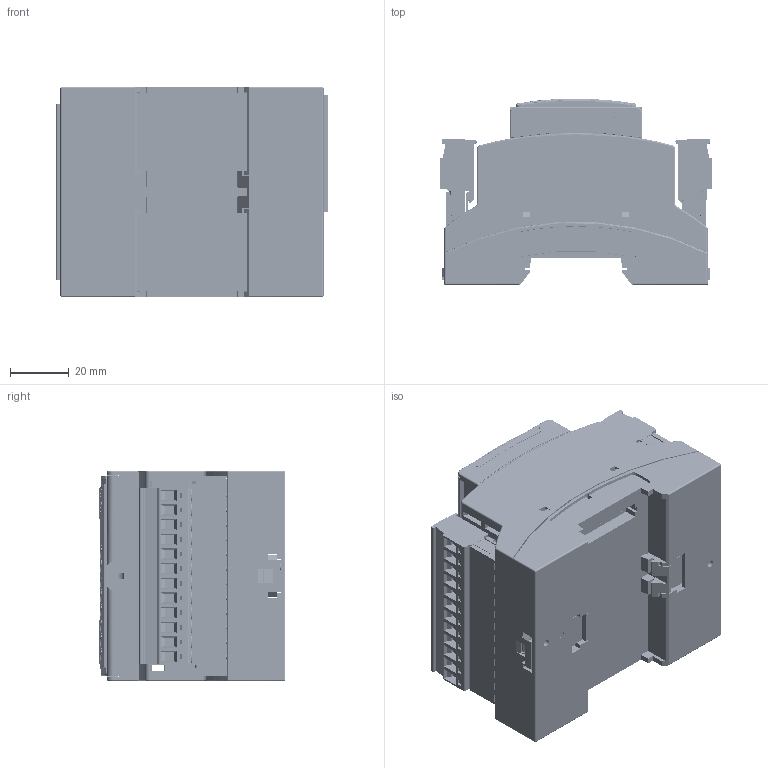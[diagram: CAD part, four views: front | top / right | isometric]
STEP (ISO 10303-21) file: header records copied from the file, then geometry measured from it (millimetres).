
FILE_DESCRIPTION(/* description */ (''),/* implementation_level */ '2;1');
FILE_NAME(/* name */ 'P:\Server\PG002948\Dir7\MCM260\MCM260-123_Shrinkwrap_1.stp',/* time_stamp */ '2018-09-12T11:16:42+02:00',/* author */ ('ut3'),/* organization */ (''),/* preprocessor_version */ 'ST-DEVELOPER v17',/* originating_system */ 'Autodesk Inventor 2019',/* authorisation */ '');
FILE_SCHEMA (('AUTOMOTIVE_DESIGN { 1 0 10303 214 3 1 1 }'));
Products named in the file (1): MCM260-123_Shrinkwrap_1
Bounding box: 92.56 x 63.43 x 71.6 mm (x, y, z)
Volume: 103468.7 mm3; surface area: 122584.3 mm2
Topology: 50 solids, 74 shells, 7462 faces, 19443 edges, 12423 vertices
Faces by surface type: plane 5610, cylinder 1217, bspline 316, cone 203, torus 93, sphere 23
Full cylindrical faces by diameter (mm): 0.305 x81, 0.406 x246, 0.434 x2, 0.457 x1, 0.508 x48, 0.61 x5, 0.711 x1, 1 x18, 1.016 x2, 1.2 x10, 1.3 x20, 1.397 x5, 1.4 x20, 1.6 x24, 2 x10, 2.2 x1, 2.4 x6, 2.75 x5, 2.8 x18, 2.803 x5, 2.95 x5, 2.953 x5, 3 x18, 3.8 x1, 3.85 x20, 4.05 x40, 4.826 x1, 5 x1, 7.2 x20
Entity records: 265830 total; most frequent: CARTESIAN_POINT 72548, ORIENTED_EDGE 38588, DIRECTION 36954, EDGE_CURVE 19430, LINE 14704, VECTOR 14704, VERTEX_POINT 12423, AXIS2_PLACEMENT_3D 11125
